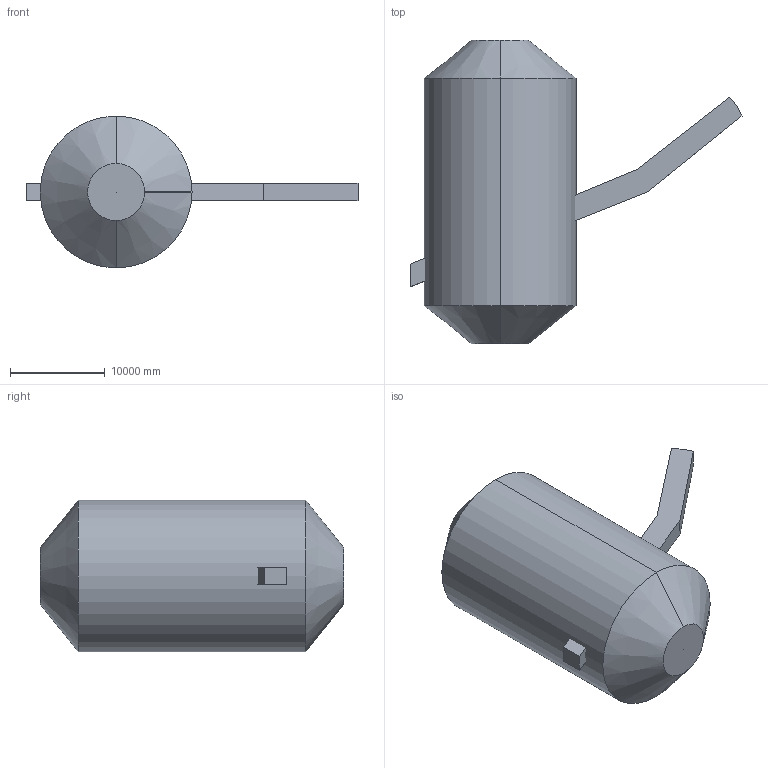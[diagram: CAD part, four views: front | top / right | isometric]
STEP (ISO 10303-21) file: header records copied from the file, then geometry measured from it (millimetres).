
FILE_DESCRIPTION (( 'STEP AP203' ), '1' );
FILE_NAME ('03_Tether_And_Apex_Hub.STEP', '2026-10-28T18:37:57', ( '' ), ( '' ), 'SwSTEP 2.0', 'SolidWorks 2026', '' );
FILE_SCHEMA (( 'CONFIG_CONTROL_DESIGN' ));
Length unit declared in the file: inch
Products named in the file (3): AP_01_Apex_Counterweight_Core; 03_Tether_And_Apex_Hub; AP_02_Peet_Interplanetary_Sling_Ramp
Assembly tree (2 placements, depth 2):
  03_Tether_And_Apex_Hub
    AP_01_Apex_Counterweight_Core
    AP_02_Peet_Interplanetary_Sling_Ramp
Bounding box: 35000 x 32000 x 16000 mm (x, y, z)
Volume: 5808093704513.9 mm3; surface area: 2515457568.6 mm2
Topology: 2 solids, 2 shells, 22 faces, 50 edges, 32 vertices
Faces by surface type: plane 13, cone 6, cylinder 3
Entity records: 925 total; most frequent: DIRECTION 116, CARTESIAN_POINT 109, ORIENTED_EDGE 100, EDGE_CURVE 50, AXIS2_PLACEMENT_3D 39, LINE 38, VECTOR 38, VERTEX_POINT 32
